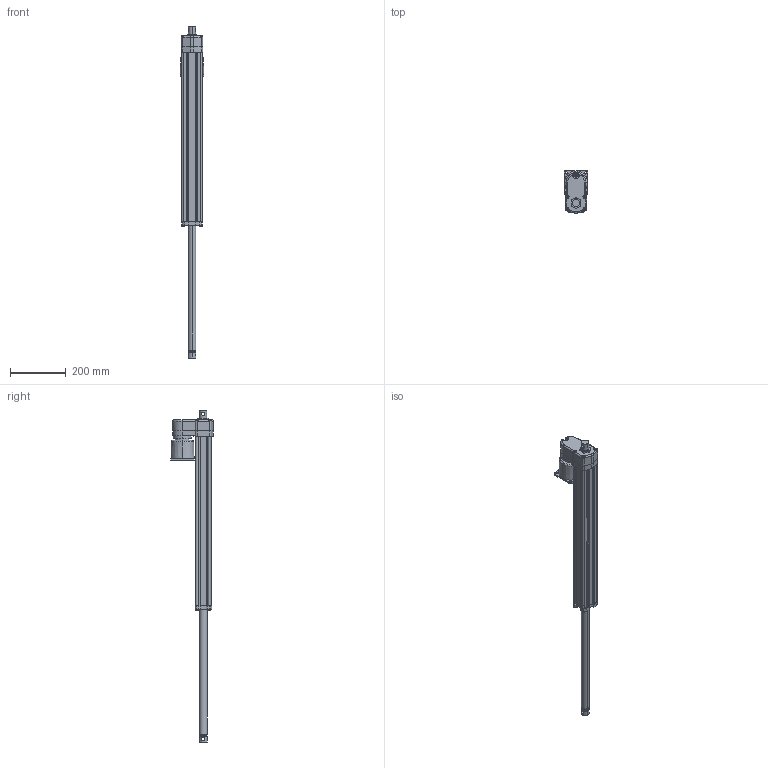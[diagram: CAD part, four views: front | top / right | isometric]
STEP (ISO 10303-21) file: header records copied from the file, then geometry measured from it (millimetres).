
FILE_DESCRIPTION (( 'STEP AP214' ), '1' );
FILE_NAME ('FA14-05B65M45M0_tollo.step', '2020-04-15T18:27:04', ( '' ), ( '' ), 'SwSTEP 2.0', 'SolidWorks 2010', '' );
FILE_SCHEMA (( 'AUTOMOTIVE_DESIGN' ));
Length unit declared in the file: millimetre
Products named in the file (9): Electrak-FA14-House-Ball-Tollo; Electrak-FA14-Rear-Tollo; Electrak-FA14-Motor-Tollo; Electrak-FA14-Tube-Ball-Tollo; Electrak-FA14-Plate-Tollo; Screw-MRT-TT-M5; Screw-M6S-M5; Electrak-FA14-Rod-Ball-Tollo; FA14-05B65M45M0_tollo
Assembly tree (15 placements, depth 3):
  FA14-05B65M45M0_tollo
    Electrak-FA14-Rod-Ball-Tollo
    Electrak-FA14-House-Ball-Tollo
      Electrak-FA14-Plate-Tollo
      Screw-MRT-TT-M5
      Screw-M6S-M5  x8
      Electrak-FA14-Rear-Tollo
      Electrak-FA14-Motor-Tollo
      Electrak-FA14-Tube-Ball-Tollo
Bounding box: 85 x 154.18 x 1194 mm (x, y, z)
Volume: 1709259.6 mm3; surface area: 558947.9 mm2
Topology: 14 solids, 14 shells, 636 faces, 1593 edges, 1013 vertices
Faces by surface type: cylinder 277, plane 234, cone 96, torus 27, bspline 2
Entity records: 14174 total; most frequent: CARTESIAN_POINT 3137, DIRECTION 2360, ORIENTED_EDGE 2174, EDGE_CURVE 1087, AXIS2_PLACEMENT_3D 885, VERTEX_POINT 698, VECTOR 590, LINE 590
